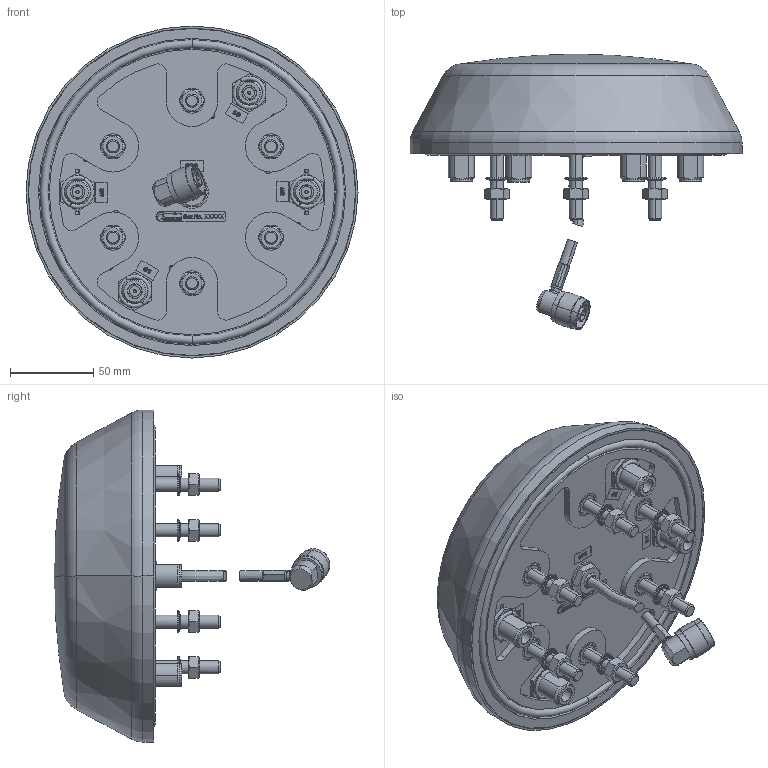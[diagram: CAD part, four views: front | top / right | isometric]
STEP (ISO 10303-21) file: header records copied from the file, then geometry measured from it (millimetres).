
FILE_DESCRIPTION (( 'STEP AP214' ), '1' );
FILE_NAME ('100-58-10-05.54 3D-Modell Kunde.STEP', '2019-04-16T08:46:22', ( '' ), ( '' ), 'SwSTEP 2.0', 'SolidWorks 2015', '' );
FILE_SCHEMA (( 'AUTOMOTIVE_DESIGN' ));
Length unit declared in the file: millimetre
Products named in the file (22): SchrSchl_blau_6,4_3,2 Abschnitt; 100-58-10-05.54 3D-Modell Kunde; Kabel_d6.5_L40; M-0439-M8-03; GEH-200.001; FS0137-10.5-03; GP-200.454; ETK-GPS; DT-19.001; ETK-5G; SR-0603-080-050-03; DI-200.007-ORing; M-0439-M10-03; SCH-Schnorr-084-03; ETK-ASN neu; Kabel_d6.5_L15; DI-200.007; M-0934-M8-03; S050817-Mutter; S050817; Stecker_abgewinkelt; DI-14.22 O-Ring rot flach
Assembly tree (53 placements, depth 2):
  100-58-10-05.54 3D-Modell Kunde
    GP-200.454
    DI-200.007
    DI-200.007-ORing
    GEH-200.001
    DT-19.001
    S050817  x4
    SR-0603-080-050-03  x6
    SCH-Schnorr-084-03  x6
    M-0934-M8-03  x6
    M-0439-M8-03  x6
    FS0137-10.5-03
    M-0439-M10-03
    ETK-ASN neu
    ETK-GPS
    ETK-5G  x4
    Kabel_d6.5_L15
    Kabel_d6.5_L40
    Stecker_abgewinkelt
    DI-14.22 O-Ring rot flach  x4
    SchrSchl_blau_6,4_3,2 Abschnitt
    S050817-Mutter  x4
Bounding box: 200 x 166.22 x 200 mm (x, y, z)
Volume: 485197.8 mm3; surface area: 275585.4 mm2
Topology: 53 solids, 53 shells, 3531 faces, 9653 edges, 6312 vertices
Faces by surface type: plane 2518, cylinder 436, cone 268, bspline 195, torus 114
Entity records: 51441 total; most frequent: CARTESIAN_POINT 15708, ORIENTED_EDGE 6808, DIRECTION 5978, EDGE_CURVE 3404, VERTEX_POINT 2228, AXIS2_PLACEMENT_3D 2082, VECTOR 1814, LINE 1814
